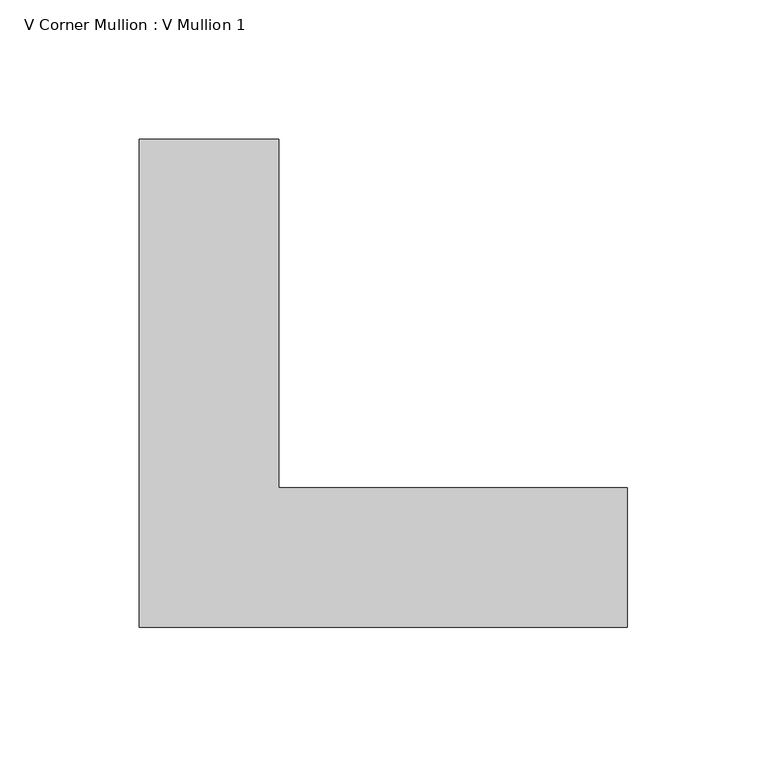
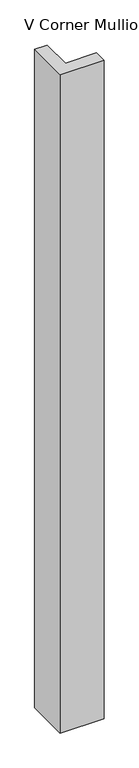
"""IFC4 building model written with IfcOpenShell, lengths in millimetres: member geometry, V Corner Mullion : V Mullion 1."""

import ifcopenshell
import ifcopenshell.guid

model = None  # the IFC model being written
_history = None  # IfcOwnerHistory: only IFC2X3 demands one
_inside = {}  # id of a spatial element -> (the spatial element, [elements in it])
_under = {}  # id of a project, library or spatial element -> (it, [spatial elements below it])
_declared = {}  # id of a project -> (the project, [libraries it declares])
_typed = {}  # id of a type object -> (the type object, [elements of that type])
_made_of = {}  # id of a material, layer set ... -> (it, [elements and type objects made of it])


def new_model(schema):
    """Start an empty IFC model of exactly this schema.

    Asked for "IFC4X3", IfcOpenShell would pick the latest addendum, in which some entities
    have other attributes; the version numbers below select the first issue.
    IFC2X3 requires an IfcOwnerHistory on every rooted entity: one is made here for all.
    """
    global model, _history
    if schema == "IFC4X3":
        model = ifcopenshell.file(schema_version=(4, 3, 0, 0))
    else:
        model = ifcopenshell.file(schema=schema)
    _inside.clear()
    _under.clear()
    _declared.clear()
    _typed.clear()
    _made_of.clear()
    _history = None
    if model.schema == "IFC2X3":
        org = make("IfcOrganization", Name="unknown")
        user = make(
            "IfcPersonAndOrganization",
            ThePerson=make("IfcPerson", FamilyName="unknown"),
            TheOrganization=org,
        )
        app = make(
            "IfcApplication",
            ApplicationDeveloper=org,
            Version="unknown",
            ApplicationFullName="unknown",
            ApplicationIdentifier="unknown",
        )
        _history = make(
            "IfcOwnerHistory",
            OwningUser=user,
            OwningApplication=app,
            ChangeAction="ADDED",
            CreationDate=0,
        )
    return model


def make(cls, **values):
    """One entity of the class cls with the attributes given. An attribute that is None is left unset."""
    return model.create_entity(
        cls, **{name: value for name, value in values.items() if value is not None}
    )


def rooted(cls, **values):
    """An entity with a GlobalId (a new one), such as an element, a storey or a relation."""
    return make(cls, GlobalId=ifcopenshell.guid.new(), OwnerHistory=_history, **values)


def si_unit(unit_type, name, prefix=None):
    """IfcSIUnit, for example si_unit("LENGTHUNIT", "METRE", prefix="MILLI")."""
    return make("IfcSIUnit", UnitType=unit_type, Prefix=prefix, Name=name)


def assignment(units):
    """IfcUnitAssignment: the units of a project."""
    return None if units is None else make("IfcUnitAssignment", Units=units)


def point(xyz):
    """IfcCartesianPoint."""
    return None if xyz is None else make("IfcCartesianPoint", Coordinates=xyz)


def direction(xyz):
    """IfcDirection."""
    return None if xyz is None else make("IfcDirection", DirectionRatios=xyz)


def frame(location, z_axis=None, x_axis=None):
    """IfcAxis2Placement3D, a coordinate frame: its origin and axes. An axis left out is left unset."""
    return make(
        "IfcAxis2Placement3D",
        Location=point(location),
        Axis=direction(z_axis),
        RefDirection=direction(x_axis),
    )


def origin():
    """The frame at (0, 0, 0) with its axes left unset."""
    return frame((0.0, 0.0, 0.0))


def place(relative_to, where):
    """IfcLocalPlacement: puts the frame where relative to a parent placement (None: the world)."""
    return make(
        "IfcLocalPlacement", PlacementRelTo=relative_to, RelativePlacement=where
    )


def context(
    kind, dimensions, precision=None, world=None, true_north=None, identifier=None
):
    """IfcGeometricRepresentationContext, for example the 3D "Model" context."""
    return make(
        "IfcGeometricRepresentationContext",
        ContextIdentifier=identifier,
        ContextType=kind,
        CoordinateSpaceDimension=dimensions,
        Precision=precision,
        WorldCoordinateSystem=world,
        TrueNorth=true_north,
    )


def project(units=None, contexts=None):
    """IfcProject with its units and contexts."""
    return rooted(
        "IfcProject",
        Name="project",
        RepresentationContexts=contexts,
        UnitsInContext=assignment(units),
    )


def spatial(cls, under=None, at=None, **own):
    """A site, building, storey or space (cls), placed at a placement, below another one or the project."""
    s = rooted(cls, ObjectPlacement=at, **own)
    if under is not None:
        _under.setdefault(under.id(), (under, []))[1].append(s)
    return s


def polyline(points):
    """IfcPolyline through the points."""
    return make("IfcPolyline", Points=[point(p) for p in points])


def outline(outer, holes=None, kind="AREA"):
    """IfcArbitraryClosedProfileDef: a profile drawn as a closed curve; with holes, ...WithVoids."""
    if holes is None:
        return make("IfcArbitraryClosedProfileDef", ProfileType=kind, OuterCurve=outer)
    return make(
        "IfcArbitraryProfileDefWithVoids",
        ProfileType=kind,
        OuterCurve=outer,
        InnerCurves=holes,
    )


def extrude(swept, where, along, depth):
    """IfcExtrudedAreaSolid: the profile swept, set in the frame where, extruded along a direction by depth."""
    return make(
        "IfcExtrudedAreaSolid",
        SweptArea=swept,
        Position=where,
        ExtrudedDirection=direction(along),
        Depth=depth,
    )


def shape(context_of_items, identifier, shape_type, items):
    """IfcShapeRepresentation: the items that make up one representation, for example the "Body"."""
    return make(
        "IfcShapeRepresentation",
        ContextOfItems=context_of_items,
        RepresentationIdentifier=identifier,
        RepresentationType=shape_type,
        Items=items,
    )


def source(mapping_origin, context_of_items, identifier, shape_type, items):
    """IfcRepresentationMap: a shape defined once, which mapped items show again and again."""
    return make(
        "IfcRepresentationMap",
        MappingOrigin=mapping_origin,
        MappedRepresentation=shape(context_of_items, identifier, shape_type, items),
    )


def transform(
    local_origin,
    x_axis=None,
    y_axis=None,
    z_axis=None,
    scale=None,
    scale2=None,
    scale3=None,
    uniform=True,
):
    """IfcCartesianTransformationOperator3D, or its non-uniform kind. x_axis, y_axis, z_axis: its Axis1, 2, 3."""
    if uniform:
        return make(
            "IfcCartesianTransformationOperator3D",
            Axis1=direction(x_axis),
            Axis2=direction(y_axis),
            LocalOrigin=point(local_origin),
            Scale=scale,
            Axis3=direction(z_axis),
        )
    return make(
        "IfcCartesianTransformationOperator3DnonUniform",
        Axis1=direction(x_axis),
        Axis2=direction(y_axis),
        LocalOrigin=point(local_origin),
        Scale=scale,
        Axis3=direction(z_axis),
        Scale2=scale2,
        Scale3=scale3,
    )


def mapped(mapping_source, mapping_target):
    """IfcMappedItem: shows the shape of a source again, moved by a transform."""
    return make(
        "IfcMappedItem", MappingSource=mapping_source, MappingTarget=mapping_target
    )


def made_of(thing, what):
    """Note that an element or type object is made of a material, layer set ...; save() writes the relation."""
    if what is not None:
        _made_of.setdefault(what.id(), (what, []))[1].append(thing)
    return thing


def element(
    cls,
    number,
    at=None,
    inside=None,
    cuts=None,
    type_object=None,
    material=None,
    context=None,
    identifier="Body",
    shape_type=None,
    held_by="IfcProductDefinitionShape",
    body=None,
    shapes=None,
    **own,
):
    """One element of the class cls, such as IfcWall. Its Tag is "e" and its number.

    at: its placement. inside: the storey or other place that contains it. cuts: it is an
    opening in that element (IfcRelVoidsElement). A single representation is given by context,
    identifier, shape_type and body (its items); several are given by shapes. held_by: the class
    of the entity that holds the representations. save() writes the other relations.
    """
    e = rooted(cls, Tag="e%d" % number, ObjectPlacement=at, **own)
    if body is not None:
        shapes = [shape(context, identifier, shape_type, body)]
    if shapes is not None:
        e.Representation = make(held_by, Representations=shapes)
    if inside is not None:
        _inside.setdefault(inside.id(), (inside, []))[1].append(e)
    if cuts is not None:
        rooted(
            "IfcRelVoidsElement", RelatingBuildingElement=cuts, RelatedOpeningElement=e
        )
    if type_object is not None:
        _typed.setdefault(type_object.id(), (type_object, []))[1].append(e)
    return made_of(e, material)


def aggregate(whole, parts):
    """IfcRelAggregates: a whole, such as a stair, and the parts it consists of."""
    return rooted("IfcRelAggregates", RelatingObject=whole, RelatedObjects=parts)


def save(model, path):
    """Write the relations noted so far, then the file.

    IfcRelAggregates (storeys below a building ...), IfcRelContainedInSpatialStructure (elements
    in a storey), IfcRelDefinesByType, IfcRelAssociatesMaterial and IfcRelDeclares: one each for
    every whole, place, type object, material and project.
    """
    for whole, parts in _under.values():
        aggregate(whole, parts)
    for where, things in _inside.values():
        rooted(
            "IfcRelContainedInSpatialStructure",
            RelatedElements=things,
            RelatingStructure=where,
        )
    for kind, things in _typed.values():
        rooted("IfcRelDefinesByType", RelatedObjects=things, RelatingType=kind)
    for what, things in _made_of.values():
        rooted("IfcRelAssociatesMaterial", RelatedObjects=things, RelatingMaterial=what)
    for by, libraries in _declared.values():
        rooted("IfcRelDeclares", RelatingContext=by, RelatedDefinitions=libraries)
    model.write(path)


def v_corner_mullion_v_mullion_1_cbfc2b9c(model_context):
    return source(origin(), model_context, "Body", "SweptSolid", [
        extrude(outline(polyline([(75.0, -100.0), (-100.0, -100.0), (-100.0, 75.0), (-50.0, 75.0), (-50.0, -50.0), (75.0, -50.0), (75.0, -100.0)])), frame((0.0, 0.0, -2775.0), z_axis=(0.0, 0.0, 1.0), x_axis=(1.0, 0.0, 0.0)), (0.0, 0.0, 1.0), 2775.0),
    ])


if __name__ == "__main__":
    model = new_model("IFC4")
    model_context = context("Model", 3, world=origin())
    ifc_project = project(units=[si_unit("LENGTHUNIT", "METRE", prefix="MILLI")], contexts=[model_context])
    site = spatial("IfcSite", under=ifc_project)
    building = spatial("IfcBuilding", under=site)
    placement = place(None, origin())
    v_corner_mullion_v_mullion_1_shape = v_corner_mullion_v_mullion_1_cbfc2b9c(model_context)
    element("IfcMember", 1, ObjectType="V Corner Mullion : V Mullion 1", at=placement, inside=building, context=model_context, shape_type="MappedRepresentation", body=[
        mapped(v_corner_mullion_v_mullion_1_shape, transform((0.0, 0.0, 0.0), x_axis=(1.0, 0.0, 0.0), y_axis=(0.0, 1.0, 0.0), z_axis=(0.0, 0.0, 1.0))),
    ])
    save(model, "model.ifc")
